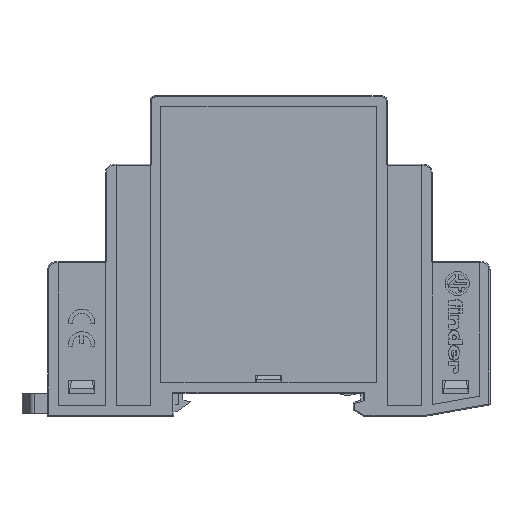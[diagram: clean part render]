
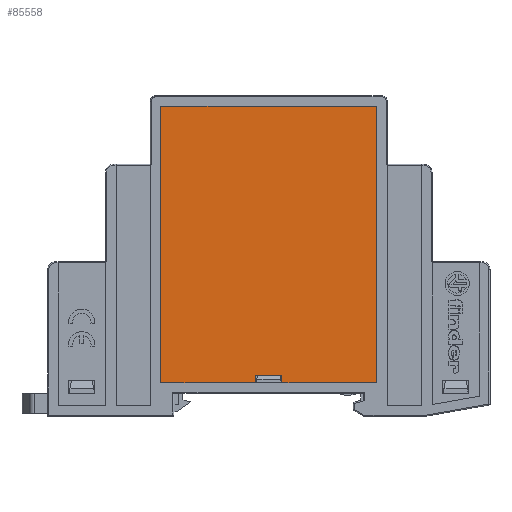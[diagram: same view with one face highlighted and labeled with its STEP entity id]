
A CAD part, left-side view. The second image highlights one B-rep face of the part: STEP entity #85558.
In plain terms, the highlighted planar face has unit normal (-1, 0, 0).
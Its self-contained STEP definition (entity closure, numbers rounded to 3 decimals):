
#24870=ORIENTED_EDGE('',*,*,#38375,.F.);
#24871=ORIENTED_EDGE('',*,*,#38374,.T.);
#24872=ORIENTED_EDGE('',*,*,#38376,.T.);
#24873=ORIENTED_EDGE('',*,*,#38377,.F.);
#24874=ORIENTED_EDGE('',*,*,#38378,.F.);
#24875=ORIENTED_EDGE('',*,*,#38379,.F.);
#24876=ORIENTED_EDGE('',*,*,#38380,.F.);
#24877=ORIENTED_EDGE('',*,*,#38381,.F.);
#38374=EDGE_CURVE('',#46242,#46245,#56158,.T.);
#38375=EDGE_CURVE('',#46242,#46246,#56159,.T.);
#38376=EDGE_CURVE('',#46245,#46247,#56160,.T.);
#38377=EDGE_CURVE('',#46248,#46247,#56161,.T.);
#38378=EDGE_CURVE('',#46249,#46248,#56162,.T.);
#38379=EDGE_CURVE('',#46250,#46249,#56163,.T.);
#38380=EDGE_CURVE('',#46251,#46250,#56164,.T.);
#38381=EDGE_CURVE('',#46246,#46251,#56165,.T.);
#46242=VERTEX_POINT('',#169512);
#46245=VERTEX_POINT('',#169518);
#46246=VERTEX_POINT('',#169522);
#46247=VERTEX_POINT('',#169524);
#46248=VERTEX_POINT('',#169526);
#46249=VERTEX_POINT('',#169528);
#46250=VERTEX_POINT('',#169530);
#46251=VERTEX_POINT('',#169532);
#56158=LINE('',#169519,#66434);
#56159=LINE('',#169521,#66435);
#56160=LINE('',#169523,#66436);
#56161=LINE('',#169525,#66437);
#56162=LINE('',#169527,#66438);
#56163=LINE('',#169529,#66439);
#56164=LINE('',#169531,#66440);
#56165=LINE('',#169533,#66441);
#66434=VECTOR('',#141594,1000.);
#66435=VECTOR('',#141597,1000.);
#66436=VECTOR('',#141598,1000.);
#66437=VECTOR('',#141599,1000.);
#66438=VECTOR('',#141600,1000.);
#66439=VECTOR('',#141601,1000.);
#66440=VECTOR('',#141602,1000.);
#66441=VECTOR('',#141603,1000.);
#71888=EDGE_LOOP('',(#24870,#24871,#24872,#24873,#24874,#24875,#24876,#24877));
#76882=FACE_BOUND('',#71888,.T.);
#81008=PLANE('',#121308);
#85558=ADVANCED_FACE('',(#76882),#81008,.T.);
#121308=AXIS2_PLACEMENT_3D('',#169520,#141595,#141596);
#141594=DIRECTION('',(0.,0.,1.));
#141595=DIRECTION('',(-1.,0.,0.));
#141596=DIRECTION('',(0.,0.,1.));
#141597=DIRECTION('',(0.,1.,0.));
#141598=DIRECTION('',(0.,-1.,0.));
#141599=DIRECTION('',(0.,0.,1.));
#141600=DIRECTION('',(0.,1.,0.));
#141601=DIRECTION('',(0.,0.,-1.));
#141602=DIRECTION('',(0.,-1.,0.));
#141603=DIRECTION('',(0.,0.,1.));
#169512=CARTESIAN_POINT('',(-25.203,55.274,-21.5));
#169518=CARTESIAN_POINT('',(-25.203,55.274,-20.));
#169519=CARTESIAN_POINT('',(-25.203,55.274,-21.5));
#169520=CARTESIAN_POINT('',(-25.203,10.773,-27.801));
#169521=CARTESIAN_POINT('',(-25.203,55.274,-21.5));
#169522=CARTESIAN_POINT('',(-25.203,73.274,-21.5));
#169523=CARTESIAN_POINT('',(-25.203,55.274,-20.));
#169524=CARTESIAN_POINT('',(-25.203,50.274,-20.));
#169525=CARTESIAN_POINT('',(-25.203,50.274,-21.5));
#169526=CARTESIAN_POINT('',(-25.203,50.274,-21.5));
#169527=CARTESIAN_POINT('',(-25.203,32.274,-21.5));
#169528=CARTESIAN_POINT('',(-25.203,32.274,-21.5));
#169529=CARTESIAN_POINT('',(-25.203,32.274,31.));
#169530=CARTESIAN_POINT('',(-25.203,32.274,31.));
#169531=CARTESIAN_POINT('',(-25.203,73.274,31.));
#169532=CARTESIAN_POINT('',(-25.203,73.274,31.));
#169533=CARTESIAN_POINT('',(-25.203,73.274,-21.5));
